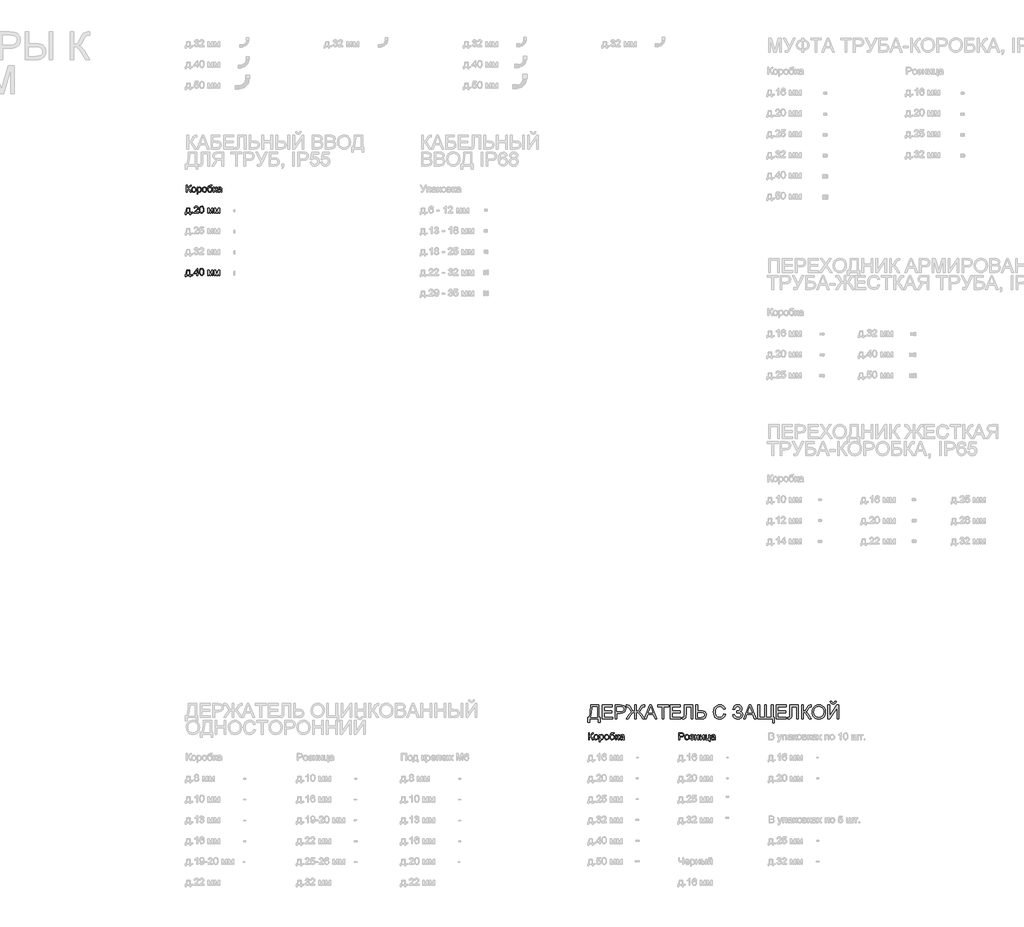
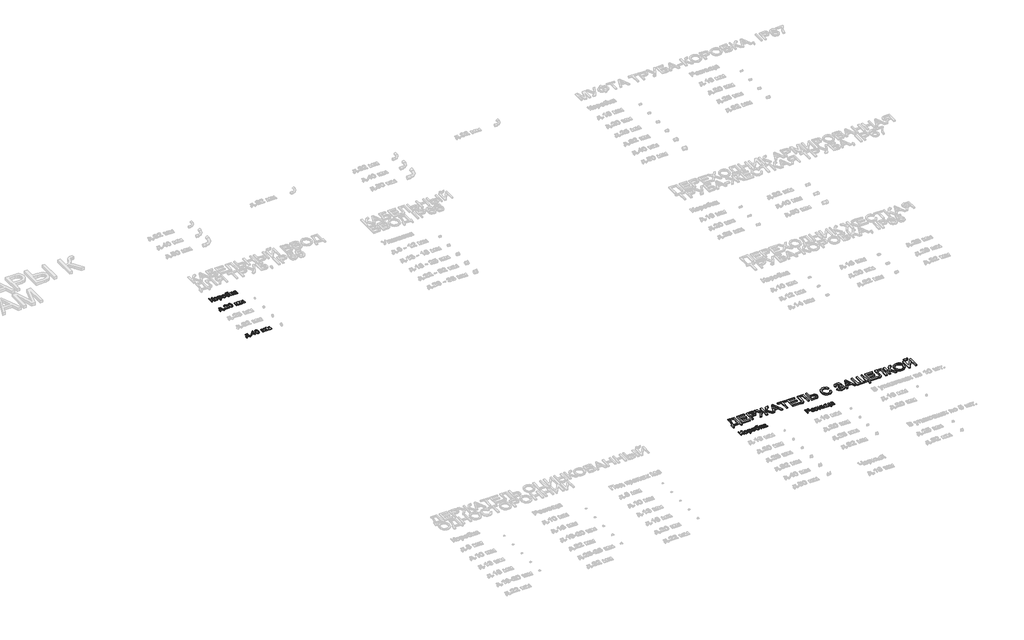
# One storey, part 52 of 98: 6 proxies.
"""IFC4 building model written with IfcOpenShell, lengths in millimetres."""

from ifc_helpers import new_model, si_unit, origin, origin_with_axes, place, context, project, spatial, polyline, outline, extrude, element, save

model = new_model("IFC4")

# Units and contexts
model_context = context("Model", 3, world=origin())
ifc_project = project(units=[si_unit("LENGTHUNIT", "METRE", prefix="MILLI")], contexts=[model_context])

# Site, building, storey
site = spatial("IfcSite", under=ifc_project)
building = spatial("IfcBuilding", under=site)
storey = spatial("IfcBuildingStorey", under=building, Name="Этаж 01", Elevation=0.0)

# Proxies
placement = place(None, origin())
element("IfcBuildingElementProxy", 1, Name="100", ObjectType="100", at=placement, inside=storey, context=model_context, shape_type="SweptSolid", body=[
    extrude(outline(polyline([(5765.3429127, -31859.0558563), (5777.8999515, -31859.0558563), (5777.8999515, -31903.005492), (5791.940781, -31899.6822913), (5801.7387048, -31882.8700841), (5808.667149, -31868.8292546), (5816.5152983, -31861.8762849), (5827.7356991, -31859.0558563), (5835.9762558, -31859.2030091), (5835.9762558, -31871.7600479), (5833.2048781, -31871.6864715), (5830.4335004, -31871.6128951), (5820.6233139, -31874.6295274), (5813.1675721, -31887.5544482), (5804.2770906, -31903.2997976), (5795.6073382, -31908.4991965), (5805.3010288, -31914.1768419), (5814.8598293, -31926.0103794), (5835.9762558, -31959.5121665), (5821.4081288, -31959.5121665), (5803.5535893, -31931.2097783), (5790.9842878, -31916.4331848), (5777.8999515, -31912.4232711), (5777.8999515, -31959.5121665), (5765.3429127, -31959.5121665), (5765.3429127, -31859.0558563)])), origin_with_axes(), (0.0, 0.0, 1.0), 10.0),
    extrude(outline(polyline([(5842.2547752, -31922.6258651), (5844.9709706, -31904.8387706), (5853.1195568, -31892.3369141), (5863.1872607, -31886.2116789), (5875.2415274, -31884.1699338), (5888.4331627, -31886.656203), (5898.9699161, -31894.1150104), (5905.8769006, -31905.957745), (5908.1792287, -31921.5957955), (5904.1080013, -31943.9384953), (5892.2499384, -31956.5813732), (5875.2415274, -31961.0817963), (5861.8904767, -31958.6047242), (5851.365986, -31951.1735079), (5844.5325779, -31939.082453), (5842.2547752, -31922.6258651)]), holes=[polyline([(5854.811814, -31922.6013396), (5856.2649479, -31933.9658276), (5860.6243495, -31942.0622972), (5867.1849117, -31946.9091424), (5875.2415274, -31948.5247575), (5883.2613549, -31946.8999454), (5889.8096545, -31942.025509), (5894.1690561, -31933.8217405), (5895.62219, -31922.2089321), (5894.159859, -31911.175538), (5889.7728663, -31903.189433), (5883.2153697, -31898.3425877), (5875.2415274, -31896.7269726), (5867.1849117, -31898.3364563), (5860.6243495, -31903.1649075), (5856.2649479, -31911.242983), (5854.811814, -31922.6013396)])]), origin_with_axes(), (0.0, 0.0, 1.0), 10.0),
    extrude(outline(polyline([(5922.3058974, -31987.7655037), (5922.3058974, -31885.7395637), (5934.8629361, -31885.7395637), (5934.8629361, -31898.0513478), (5943.5449512, -31887.6402873), (5955.2681241, -31884.1699338), (5971.1851518, -31889.0259762), (5981.5839495, -31902.7111864), (5985.0910912, -31922.0617793), (5981.1302284, -31942.4056537), (5969.6277847, -31956.2625422), (5953.7475452, -31961.0817963), (5942.82145, -31957.8566975), (5934.8629361, -31949.7019799), (5934.8629361, -31987.7655037), (5922.3058974, -31987.7655037)]), holes=[polyline([(5934.8629361, -31923.2144763), (5936.2210338, -31934.4716653), (5940.2953269, -31942.34434), (5946.3071319, -31946.9796532), (5953.4777651, -31948.5247575), (5960.7648943, -31946.9244709), (5966.9299834, -31942.1236108), (5971.1330352, -31933.9627619), (5972.5340524, -31922.2825085), (5971.1667577, -31911.0866332), (5967.0648734, -31903.1035939), (5961.0622655, -31898.3211279), (5953.9927999, -31896.7269726), (5946.8957431, -31898.4222955), (5940.6632089, -31903.5082641), (5936.3130043, -31911.8254628), (5934.8629361, -31923.2144763)])]), origin_with_axes(), (0.0, 0.0, 1.0), 10.0),
    extrude(outline(polyline([(5996.0785001, -31922.6258651), (5998.7946955, -31904.8387706), (6006.9432817, -31892.3369141), (6017.0109856, -31886.2116789), (6029.0652524, -31884.1699338), (6042.2568876, -31886.656203), (6052.793641, -31894.1150104), (6059.7006255, -31905.957745), (6062.0029537, -31921.5957955), (6057.9317262, -31943.9384953), (6046.0736633, -31956.5813732), (6029.0652524, -31961.0817963), (6015.7142016, -31958.6047242), (6005.1897109, -31951.1735079), (5998.3563028, -31939.082453), (5996.0785001, -31922.6258651)]), holes=[polyline([(6008.6355389, -31922.6013396), (6010.0886728, -31933.9658276), (6014.4480744, -31942.0622972), (6021.0086367, -31946.9091424), (6029.0652524, -31948.5247575), (6037.0850799, -31946.8999454), (6043.6333794, -31942.025509), (6047.992781, -31933.8217405), (6049.4459149, -31922.2089321), (6047.983584, -31911.175538), (6043.5965912, -31903.189433), (6037.0390946, -31898.3425877), (6029.0652524, -31896.7269726), (6021.0086367, -31898.3364563), (6014.4480744, -31903.1649075), (6010.0886728, -31911.242983), (6008.6355389, -31922.6013396)])]), origin_with_axes(), (0.0, 0.0, 1.0), 10.0),
    extrude(outline(polyline([(6127.9274072, -31857.4862265), (6138.9148161, -31857.4862265), (6135.6774546, -31867.2841503), (6129.2763078, -31870.8280802), (6113.8988404, -31871.6128951), (6093.1870841, -31874.5069001), (6085.240833, -31883.7775264), (6082.5552945, -31900.1850634), (6093.4323388, -31888.1675849), (6107.4486428, -31884.1699338), (6120.514585, -31886.7113853), (6131.1157178, -31894.3357396), (6138.1422639, -31906.2949702), (6140.484446, -31921.8410502), (6135.8368701, -31943.447986), (6124.812673, -31956.4832714), (6107.4486428, -31961.0817963), (6096.1148117, -31959.6010713), (6087.6198033, -31955.1588962), (6076.7672844, -31940.002158), (6072.9903626, -31907.8370089), (6075.3723985, -31883.7438039), (6082.5185063, -31869.0499838), (6094.6064955, -31861.5543882), (6111.8141758, -31859.0558563), (6125.7936916, -31858.7738134), (6127.9274072, -31857.4862265)]), holes=[polyline([(6127.9274072, -31921.4486427), (6126.5662438, -31911.5679454), (6122.4827537, -31903.6554169), (6115.9221914, -31898.4590837), (6107.1298117, -31896.7269726), (6097.9634187, -31898.5571855), (6091.1637331, -31904.0478243), (6086.9514843, -31912.598015), (6085.5474014, -31923.6068837), (6087.0986371, -31934.2785273), (6091.7523443, -31942.1113481), (6098.6807886, -31946.9214052), (6107.0562353, -31948.5247575), (6115.4746017, -31946.6700191), (6122.1393971, -31941.105804), (6126.4804047, -31932.4820369), (6127.9274072, -31921.4486427)])]), origin_with_axes(), (0.0, 0.0, 1.0), 10.0),
    extrude(outline(polyline([(6156.1807444, -31885.7395637), (6168.7377832, -31885.7395637), (6168.7377832, -31917.1321606), (6177.1500181, -31914.8758177), (6184.0416742, -31901.7301677), (6189.7683706, -31890.3871396), (6194.8206167, -31886.6960569), (6204.0054038, -31885.7395637), (6206.4088995, -31885.7395637), (6206.4088995, -31898.3701789), (6203.0243851, -31898.2966025), (6196.8930186, -31899.6209776), (6192.5765365, -31907.8860598), (6187.5120277, -31916.8255923), (6180.4119052, -31921.203388), (6188.3336308, -31926.0900872), (6196.1082036, -31936.3846517), (6209.5481592, -31959.5121665), (6195.2743378, -31959.5121665), (6182.1041624, -31936.875161), (6175.4822864, -31927.2979664), (6168.7377832, -31924.9803098), (6168.7377832, -31959.5121665), (6156.1807444, -31959.5121665), (6156.1807444, -31885.7395637)])), origin_with_axes(), (0.0, 0.0, 1.0), 10.0),
    extrude(outline(polyline([(6264.4852038, -31950.0943874), (6252.3083098, -31958.6047242), (6238.8560915, -31961.0817963), (6228.3622576, -31959.5918742), (6220.6214072, -31955.122108), (6215.8481384, -31948.3346852), (6214.2570487, -31939.8917934), (6216.6605444, -31929.9589795), (6222.975852, -31922.7484924), (6231.7682317, -31918.6282141), (6242.6330133, -31916.7397532), (6264.4116274, -31912.4232711), (6264.4852038, -31909.6273679), (6261.027113, -31900.3567416), (6247.1456991, -31896.7269726), (6234.4415075, -31899.1427311), (6228.3837173, -31907.7143815), (6215.8266786, -31906.1447517), (6221.2590694, -31893.8820185), (6232.1974274, -31886.6960569), (6248.7643799, -31884.1699338), (6263.9824317, -31886.4017513), (6272.5786077, -31892.0058203), (6276.4291059, -31900.5284199), (6277.0422426, -31911.5158288), (6277.0422426, -31927.1385509), (6277.6799047, -31948.9539532), (6280.1815023, -31959.5121665), (6267.6244635, -31959.5121665), (6264.4852038, -31950.0943874)]), holes=[polyline([(6264.4852038, -31924.9803098), (6244.2271686, -31928.8308081), (6233.4237007, -31930.8664218), (6228.5308701, -31934.1773597), (6226.8140875, -31939.0088766), (6230.5542211, -31945.8024308), (6241.5293673, -31948.5247575), (6254.2335589, -31945.5203879), (6262.4250646, -31938.2485871), (6264.4116274, -31928.5365025), (6264.4852038, -31924.9803098)])]), origin_with_axes(), (0.0, 0.0, 1.0), 10.0),
])
element("IfcBuildingElementProxy", 2, Name="100", ObjectType="100", at=placement, inside=storey, context=model_context, shape_type="SweptSolid", body=[
    extrude(outline(polyline([(7065.3429127, -31959.5121665), (7065.3429127, -31859.0558563), (7102.5725707, -31859.0558563), (7117.5821561, -31860.0123495), (7129.7835756, -31864.7089763), (7137.6930385, -31874.421061), (7140.6851454, -31888.1185339), (7138.6648601, -31899.9582028), (7132.6040042, -31909.8235716), (7121.2701731, -31916.4822358), (7103.430962, -31918.7017905), (7077.8999515, -31918.7017905), (7077.8999515, -31959.5121665), (7065.3429127, -31959.5121665)]), holes=[polyline([(7077.8999515, -31906.1447517), (7104.166726, -31906.1447517), (7122.6589276, -31901.533964), (7126.7608118, -31895.9850773), (7128.1281066, -31888.5599923), (7124.9030078, -31878.1611946), (7116.4294591, -31872.4712864), (7103.8724204, -31871.6128951), (7077.8999515, -31871.6128951), (7077.8999515, -31906.1447517)])]), origin_with_axes(), (0.0, 0.0, 1.0), 10.0),
    extrude(outline(polyline([(7153.2421841, -31922.6258651), (7155.9583795, -31904.8387706), (7164.1069657, -31892.3369141), (7174.1746697, -31886.2116789), (7186.2289364, -31884.1699338), (7199.4205716, -31886.656203), (7209.9573251, -31894.1150104), (7216.8643095, -31905.957745), (7219.1666377, -31921.5957955), (7215.0954103, -31943.9384953), (7203.2373473, -31956.5813732), (7186.2289364, -31961.0817963), (7172.8778856, -31958.6047242), (7162.3533949, -31951.1735079), (7155.5199868, -31939.082453), (7153.2421841, -31922.6258651)]), holes=[polyline([(7165.7992229, -31922.6013396), (7167.2523568, -31933.9658276), (7171.6117584, -31942.0622972), (7178.1723207, -31946.9091424), (7186.2289364, -31948.5247575), (7194.2487639, -31946.8999454), (7200.7970634, -31942.025509), (7205.156465, -31933.8217405), (7206.6095989, -31922.2089321), (7205.147268, -31911.175538), (7200.7602752, -31903.189433), (7194.2027786, -31898.3425877), (7186.2289364, -31896.7269726), (7178.1723207, -31898.3364563), (7171.6117584, -31903.1649075), (7167.2523568, -31911.242983), (7165.7992229, -31922.6013396)])]), origin_with_axes(), (0.0, 0.0, 1.0), 10.0),
    extrude(outline(polyline([(7250.5592346, -31926.5499397), (7250.5592346, -31913.9929009), (7260.467523, -31913.5023916), (7265.4707181, -31910.8904294), (7267.8251629, -31905.4335132), (7264.6736405, -31899.0936801), (7256.5434484, -31896.7269726), (7248.1434762, -31899.0814174), (7242.7110854, -31906.1447517), (7228.5844167, -31904.5751218), (7238.0267213, -31889.2712308), (7255.2681241, -31884.1699338), (7265.7650237, -31885.7242353), (7273.7112748, -31890.3871396), (7278.71447, -31897.2082849), (7280.3822017, -31905.2373094), (7278.0093628, -31913.0364077), (7270.8908462, -31919.0696725), (7279.1927165, -31926.8932962), (7281.9518315, -31938.1504853), (7280.2013263, -31947.3935204), (7274.9498109, -31954.7174378), (7266.5529043, -31959.4907067), (7255.366226, -31961.0817963), (7244.4248023, -31959.6102683), (7236.0524212, -31955.1956844), (7230.2490828, -31947.8380445), (7227.0147869, -31937.5373486), (7241.1414555, -31935.9677188), (7246.8068382, -31945.238345), (7256.5679738, -31948.5247575), (7265.7404983, -31945.3732351), (7269.3947927, -31937.3166194), (7267.1261871, -31930.719269), (7262.2946702, -31927.1876018), (7253.0117812, -31926.4763633), (7250.5592346, -31926.5499397)])), origin_with_axes(), (0.0, 0.0, 1.0), 10.0),
    extrude(outline(polyline([(7297.64813, -31885.7395637), (7310.2051687, -31885.7395637), (7310.2051687, -31913.9929009), (7343.1673955, -31913.9929009), (7343.1673955, -31885.7395637), (7355.7244343, -31885.7395637), (7355.7244343, -31959.5121665), (7343.1673955, -31959.5121665), (7343.1673955, -31926.5499397), (7310.2051687, -31926.5499397), (7310.2051687, -31959.5121665), (7297.64813, -31959.5121665), (7297.64813, -31885.7395637)])), origin_with_axes(), (0.0, 0.0, 1.0), 10.0),
    extrude(outline(polyline([(7374.5599924, -31885.7395637), (7387.1170312, -31885.7395637), (7387.1170312, -31942.0009835), (7417.9700679, -31885.7395637), (7434.2059266, -31885.7395637), (7434.2059266, -31959.5121665), (7421.6488878, -31959.5121665), (7421.6488878, -31903.5941032), (7390.9920549, -31959.5121665), (7374.5599924, -31959.5121665), (7374.5599924, -31885.7395637)])), origin_with_axes(), (0.0, 0.0, 1.0), 10.0),
    extrude(outline(polyline([(7453.0414847, -31885.7395637), (7465.5985235, -31885.7395637), (7465.5985235, -31946.9551277), (7501.70001, -31946.9551277), (7501.70001, -31885.7395637), (7514.2570487, -31885.7395637), (7514.2570487, -31946.9551277), (7522.105198, -31946.9551277), (7522.105198, -31979.9173545), (7509.5481592, -31979.9173545), (7509.5481592, -31959.5121665), (7453.0414847, -31959.5121665), (7453.0414847, -31885.7395637)])), origin_with_axes(), (0.0, 0.0, 1.0), 10.0),
    extrude(outline(polyline([(7580.1815023, -31950.0943874), (7568.0046082, -31958.6047242), (7554.5523899, -31961.0817963), (7544.058556, -31959.5918742), (7536.3177057, -31955.122108), (7531.5444368, -31948.3346852), (7529.9533472, -31939.8917934), (7532.3568429, -31929.9589795), (7538.6721505, -31922.7484924), (7547.4645302, -31918.6282141), (7558.3293118, -31916.7397532), (7580.1079259, -31912.4232711), (7580.1815023, -31909.6273679), (7576.7234115, -31900.3567416), (7562.8419976, -31896.7269726), (7550.137806, -31899.1427311), (7544.0800158, -31907.7143815), (7531.522977, -31906.1447517), (7536.9553678, -31893.8820185), (7547.8937258, -31886.6960569), (7564.4606783, -31884.1699338), (7579.6787302, -31886.4017513), (7588.2749062, -31892.0058203), (7592.1254044, -31900.5284199), (7592.738541, -31911.5158288), (7592.738541, -31927.1385509), (7593.3762032, -31948.9539532), (7595.8778007, -31959.5121665), (7583.320762, -31959.5121665), (7580.1815023, -31950.0943874)]), holes=[polyline([(7580.1815023, -31924.9803098), (7559.9234671, -31928.8308081), (7549.1199991, -31930.8664218), (7544.2271686, -31934.1773597), (7542.510386, -31939.0088766), (7546.2505196, -31945.8024308), (7557.2256658, -31948.5247575), (7569.9298573, -31945.5203879), (7578.1213631, -31938.2485871), (7580.1079259, -31928.5365025), (7580.1815023, -31924.9803098)])]), origin_with_axes(), (0.0, 0.0, 1.0), 10.0),
])
element("IfcBuildingElementProxy", 3, Name="100", ObjectType="100", at=placement, inside=storey, context=model_context, shape_type="SweptSolid", body=[
    extrude(outline(polyline([(-36.4035925, -23959.0558563), (-23.8465538, -23959.0558563), (-23.8465538, -24003.005492), (-9.8057243, -23999.6822913), (-0.0078005, -23982.8700841), (6.9206438, -23968.8292546), (14.768793, -23961.8762849), (25.9891938, -23959.0558563), (34.2297505, -23959.2030091), (34.2297505, -23971.7600479), (31.4583728, -23971.6864715), (28.6869951, -23971.6128951), (18.8768086, -23974.6295274), (11.4210668, -23987.5544482), (2.5305853, -24003.2997976), (-6.1391671, -24008.4991965), (3.5545235, -24014.1768419), (13.113324, -24026.0103794), (34.2297505, -24059.5121665), (19.6616235, -24059.5121665), (1.807084, -24031.2097783), (-10.7622175, -24016.4331848), (-23.8465538, -24012.4232711), (-23.8465538, -24059.5121665), (-36.4035925, -24059.5121665), (-36.4035925, -23959.0558563)])), origin_with_axes(), (0.0, 0.0, 1.0), 10.0),
    extrude(outline(polyline([(40.5082699, -24022.6258651), (43.2244653, -24004.8387706), (51.3730515, -23992.3369141), (61.4407554, -23986.2116789), (73.4950221, -23984.1699338), (86.6866574, -23986.656203), (97.2234108, -23994.1150104), (104.1303953, -24005.957745), (106.4327234, -24021.5957955), (102.361496, -24043.9384953), (90.5034331, -24056.5813732), (73.4950221, -24061.0817963), (60.1439714, -24058.6047242), (49.6194807, -24051.1735079), (42.7860726, -24039.082453), (40.5082699, -24022.6258651)]), holes=[polyline([(53.0653087, -24022.6013396), (54.5184426, -24033.9658276), (58.8778442, -24042.0622972), (65.4384065, -24046.9091424), (73.4950221, -24048.5247575), (81.5148496, -24046.8999454), (88.0631492, -24042.025509), (92.4225508, -24033.8217405), (93.8756847, -24022.2089321), (92.4133537, -24011.175538), (88.026361, -24003.189433), (81.4688644, -23998.3425877), (73.4950221, -23996.7269726), (65.4384065, -23998.3364563), (58.8778442, -24003.1649075), (54.5184426, -24011.242983), (53.0653087, -24022.6013396)])]), origin_with_axes(), (0.0, 0.0, 1.0), 10.0),
    extrude(outline(polyline([(120.5593921, -24087.7655037), (120.5593921, -23985.7395637), (133.1164308, -23985.7395637), (133.1164308, -23998.0513478), (141.7984459, -23987.6402873), (153.5216188, -23984.1699338), (169.4386465, -23989.0259762), (179.8374442, -24002.7111864), (183.3445859, -24022.0617793), (179.3837231, -24042.4056537), (167.8812794, -24056.2625422), (152.0010399, -24061.0817963), (141.0749447, -24057.8566975), (133.1164308, -24049.7019799), (133.1164308, -24087.7655037), (120.5593921, -24087.7655037)]), holes=[polyline([(133.1164308, -24023.2144763), (134.4745285, -24034.4716653), (138.5488216, -24042.34434), (144.5606266, -24046.9796532), (151.7312598, -24048.5247575), (159.018389, -24046.9244709), (165.1834781, -24042.1236108), (169.3865299, -24033.9627619), (170.7875471, -24022.2825085), (169.4202524, -24011.0866332), (165.3183681, -24003.1035939), (159.3157603, -23998.3211279), (152.2462946, -23996.7269726), (145.1492378, -23998.4222955), (138.9167036, -24003.5082641), (134.566499, -24011.8254628), (133.1164308, -24023.2144763)])]), origin_with_axes(), (0.0, 0.0, 1.0), 10.0),
    extrude(outline(polyline([(194.3319948, -24022.6258651), (197.0481902, -24004.8387706), (205.1967764, -23992.3369141), (215.2644804, -23986.2116789), (227.3187471, -23984.1699338), (240.5103823, -23986.656203), (251.0471358, -23994.1150104), (257.9541202, -24005.957745), (260.2564484, -24021.5957955), (256.185221, -24043.9384953), (244.327158, -24056.5813732), (227.3187471, -24061.0817963), (213.9676963, -24058.6047242), (203.4432056, -24051.1735079), (196.6097975, -24039.082453), (194.3319948, -24022.6258651)]), holes=[polyline([(206.8890336, -24022.6013396), (208.3421675, -24033.9658276), (212.7015691, -24042.0622972), (219.2621314, -24046.9091424), (227.3187471, -24048.5247575), (235.3385746, -24046.8999454), (241.8868741, -24042.025509), (246.2462757, -24033.8217405), (247.6994096, -24022.2089321), (246.2370787, -24011.175538), (241.8500859, -24003.189433), (235.2925893, -23998.3425877), (227.3187471, -23996.7269726), (219.2621314, -23998.3364563), (212.7015691, -24003.1649075), (208.3421675, -24011.242983), (206.8890336, -24022.6013396)])]), origin_with_axes(), (0.0, 0.0, 1.0), 10.0),
    extrude(outline(polyline([(326.1809019, -23957.4862265), (337.1683108, -23957.4862265), (333.9309493, -23967.2841503), (327.5298025, -23970.8280802), (312.1523351, -23971.6128951), (291.4405788, -23974.5069001), (283.4943277, -23983.7775264), (280.8087892, -24000.1850634), (291.6858335, -23988.1675849), (305.7021375, -23984.1699338), (318.7680797, -23986.7113853), (329.3692125, -23994.3357396), (336.3957586, -24006.2949702), (338.7379407, -24021.8410502), (334.0903648, -24043.447986), (323.0661677, -24056.4832714), (305.7021375, -24061.0817963), (294.3683064, -24059.6010713), (285.873298, -24055.1588962), (275.0207791, -24040.002158), (271.2438573, -24007.8370089), (273.6258932, -23983.7438039), (280.772001, -23969.0499838), (292.8599902, -23961.5543882), (310.0676705, -23959.0558563), (324.0471863, -23958.7738134), (326.1809019, -23957.4862265)]), holes=[polyline([(326.1809019, -24021.4486427), (324.8197385, -24011.5679454), (320.7362484, -24003.6554169), (314.1756861, -23998.4590837), (305.3833064, -23996.7269726), (296.2169134, -23998.5571855), (289.4172278, -24004.0478243), (285.204979, -24012.598015), (283.8008961, -24023.6068837), (285.3521318, -24034.2785273), (290.005839, -24042.1113481), (296.9342833, -24046.9214052), (305.30973, -24048.5247575), (313.7280964, -24046.6700191), (320.3928918, -24041.105804), (324.7338994, -24032.4820369), (326.1809019, -24021.4486427)])]), origin_with_axes(), (0.0, 0.0, 1.0), 10.0),
    extrude(outline(polyline([(354.4342391, -23985.7395637), (366.9912779, -23985.7395637), (366.9912779, -24017.1321606), (375.4035129, -24014.8758177), (382.2951689, -24001.7301677), (388.0218653, -23990.3871396), (393.0741114, -23986.6960569), (402.2588985, -23985.7395637), (404.6623942, -23985.7395637), (404.6623942, -23998.3701789), (401.2778798, -23998.2966025), (395.1465133, -23999.6209776), (390.8300312, -24007.8860598), (385.7655224, -24016.8255923), (378.6653999, -24021.203388), (386.5871255, -24026.0900872), (394.3616983, -24036.3846517), (407.8016539, -24059.5121665), (393.5278325, -24059.5121665), (380.3576571, -24036.875161), (373.7357811, -24027.2979664), (366.9912779, -24024.9803098), (366.9912779, -24059.5121665), (354.4342391, -24059.5121665), (354.4342391, -23985.7395637)])), origin_with_axes(), (0.0, 0.0, 1.0), 10.0),
    extrude(outline(polyline([(462.7386985, -24050.0943874), (450.5618045, -24058.6047242), (437.1095862, -24061.0817963), (426.6157523, -24059.5918742), (418.874902, -24055.122108), (414.1016331, -24048.3346852), (412.5105434, -24039.8917934), (414.9140391, -24029.9589795), (421.2293467, -24022.7484924), (430.0217264, -24018.6282141), (440.886508, -24016.7397532), (462.6651221, -24012.4232711), (462.7386985, -24009.6273679), (459.2806078, -24000.3567416), (445.3991938, -23996.7269726), (432.6950022, -23999.142731), (426.637212, -24007.7143815), (414.0801733, -24006.1447517), (419.5125641, -23993.8820185), (430.4509221, -23986.6960569), (447.0178746, -23984.1699338), (462.2359264, -23986.4017513), (470.8321024, -23992.0058203), (474.6826006, -24000.5284199), (475.2957373, -24011.5158288), (475.2957373, -24027.1385509), (475.9333994, -24048.9539532), (478.434997, -24059.5121665), (465.8779582, -24059.5121665), (462.7386985, -24050.0943874)]), holes=[polyline([(462.7386985, -24024.9803098), (442.4806633, -24028.8308081), (431.6771954, -24030.8664218), (426.7843648, -24034.1773597), (425.0675822, -24039.0088766), (428.8077158, -24045.8024308), (439.782862, -24048.5247575), (452.4870536, -24045.5203879), (460.6785593, -24038.2485871), (462.6651221, -24028.5365025), (462.7386985, -24024.9803098)])]), origin_with_axes(), (0.0, 0.0, 1.0), 10.0),
])
element("IfcBuildingElementProxy", 4, Name="100", ObjectType="100", at=placement, inside=storey, context=model_context, shape_type="SweptSolid", body=[
    extrude(outline(polyline([(-29.8143916, -24285.7395637), (17.2745038, -24285.7395637), (17.2745038, -24346.9551277), (26.6922829, -24346.9551277), (26.6922829, -24379.9173545), (14.1352441, -24379.9173545), (14.1352441, -24359.5121665), (-37.6625408, -24359.5121665), (-37.6625408, -24379.9173545), (-50.2195796, -24379.9173545), (-50.2195796, -24346.9551277), (-42.3714303, -24346.9551277), (-32.6716084, -24323.0060098), (-29.8143916, -24285.7395637)]), holes=[polyline([(-18.8269827, -24298.2966025), (-21.7700386, -24326.905559), (-28.2447617, -24346.9551277), (4.717465, -24346.9551277), (4.717465, -24298.2966025), (-18.8269827, -24298.2966025)])]), origin_with_axes(), (0.0, 0.0, 1.0), 10.0),
    extrude(outline(polyline([(43.9582112, -24359.5121665), (43.9582112, -24346.9551277), (56.51525, -24346.9551277), (56.51525, -24359.5121665), (43.9582112, -24359.5121665)])), origin_with_axes(), (0.0, 0.0, 1.0), 10.0),
    extrude(outline(polyline([(141.2752616, -24346.9551277), (141.2752616, -24359.5121665), (75.3508081, -24359.5121665), (76.6997088, -24350.8546768), (84.3271288, -24337.5250859), (100.0479527, -24322.9692216), (121.728465, -24302.0489988), (127.148593, -24287.8242283), (122.0350333, -24276.3095219), (108.6809169, -24271.6128951), (94.7627147, -24276.1991573), (89.4774767, -24288.8788234), (76.920438, -24287.3091935), (79.9646615, -24275.1629563), (86.5466835, -24266.2908689), (96.3231475, -24260.8646095), (108.950697, -24259.0558563), (121.670217, -24261.0669445), (131.4282869, -24267.1002093), (137.6362956, -24276.1133182), (139.7056318, -24287.0639389), (137.4738144, -24298.9710528), (130.0548608, -24311.2828369), (112.0654312, -24328.4874515), (97.6199315, -24340.5662437), (91.9545488, -24346.9551277), (141.2752616, -24346.9551277)])), origin_with_axes(), (0.0, 0.0, 1.0), 10.0),
    extrude(outline(polyline([(153.8323004, -24310.0933518), (157.5233831, -24281.1900897), (168.4862666, -24264.5250353), (186.7945272, -24259.0558563), (201.4607561, -24262.2932179), (211.5897737, -24271.6251578), (217.4758856, -24286.4875904), (219.7567539, -24310.0933518), (216.1024595, -24338.8739865), (205.1763642, -24355.5758291), (196.9450046, -24359.7053045), (186.7945272, -24361.0817963), (173.7469791, -24358.6905633), (163.8386907, -24351.5168644), (156.333898, -24334.5268476), (153.8323004, -24310.0933518)]), holes=[polyline([(166.3893392, -24310.0688263), (167.8608672, -24329.8210238), (172.2754511, -24341.2529568), (178.8482761, -24346.7068073), (186.7945272, -24348.5247575), (194.7407783, -24346.700676), (201.3136033, -24341.2284313), (205.7281872, -24329.7903669), (207.1997152, -24310.0688263), (205.7772381, -24290.7611529), (201.509807, -24279.2403151), (194.9492447, -24273.5197501), (186.6473744, -24271.6128951), (178.7869624, -24273.2928895), (172.4716548, -24278.3328729), (167.9099181, -24290.5710806), (166.3893392, -24310.0688263)])]), origin_with_axes(), (0.0, 0.0, 1.0), 10.0),
    extrude(outline(polyline([(273.1241687, -24285.7395637), (294.7311046, -24285.7395637), (311.3838962, -24344.7968867), (329.3365376, -24285.7395637), (350.0360312, -24285.7395637), (350.0360312, -24359.5121665), (337.4789924, -24359.5121665), (337.4789924, -24300.111487), (319.4282492, -24359.5121665), (302.9471358, -24359.5121665), (285.6812075, -24297.2665329), (285.6812075, -24359.5121665), (273.1241687, -24359.5121665), (273.1241687, -24285.7395637)])), origin_with_axes(), (0.0, 0.0, 1.0), 10.0),
    extrude(outline(polyline([(368.8715893, -24285.7395637), (390.4785252, -24285.7395637), (407.1313168, -24344.7968867), (425.0839582, -24285.7395637), (445.7834518, -24285.7395637), (445.7834518, -24359.5121665), (433.226413, -24359.5121665), (433.226413, -24300.111487), (415.1756698, -24359.5121665), (398.6945564, -24359.5121665), (381.4286281, -24297.2665329), (381.4286281, -24359.5121665), (368.8715893, -24359.5121665), (368.8715893, -24285.7395637)])), origin_with_axes(), (0.0, 0.0, 1.0), 10.0),
])
element("IfcBuildingElementProxy", 5, Name="100", ObjectType="100", at=placement, inside=storey, context=model_context, shape_type="SweptSolid", body=[
    extrude(outline(polyline([(-29.8143916, -25185.7395637), (17.2745038, -25185.7395637), (17.2745038, -25246.9551277), (26.6922829, -25246.9551277), (26.6922829, -25279.9173545), (14.1352441, -25279.9173545), (14.1352441, -25259.5121665), (-37.6625408, -25259.5121665), (-37.6625408, -25279.9173545), (-50.2195796, -25279.9173545), (-50.2195796, -25246.9551277), (-42.3714303, -25246.9551277), (-32.6716084, -25223.0060098), (-29.8143916, -25185.7395637)]), holes=[polyline([(-18.8269827, -25198.2966025), (-21.7700386, -25226.905559), (-28.2447617, -25246.9551277), (4.717465, -25246.9551277), (4.717465, -25198.2966025), (-18.8269827, -25198.2966025)])]), origin_with_axes(), (0.0, 0.0, 1.0), 10.0),
    extrude(outline(polyline([(43.9582112, -25259.5121665), (43.9582112, -25246.9551277), (56.51525, -25246.9551277), (56.51525, -25259.5121665), (43.9582112, -25259.5121665)])), origin_with_axes(), (0.0, 0.0, 1.0), 10.0),
    extrude(outline(polyline([(117.730814, -25259.5121665), (117.730814, -25235.9677188), (72.2115484, -25235.9677188), (72.2115484, -25223.41068), (120.8700736, -25160.6254862), (130.2878527, -25160.6254862), (130.2878527, -25223.41068), (142.8448915, -25223.41068), (142.8448915, -25235.9677188), (130.2878527, -25235.9677188), (130.2878527, -25259.5121665), (117.730814, -25259.5121665)]), holes=[polyline([(117.730814, -25223.41068), (117.730814, -25184.6113922), (87.6625922, -25223.41068), (117.730814, -25223.41068)])]), origin_with_axes(), (0.0, 0.0, 1.0), 10.0),
    extrude(outline(polyline([(153.8323004, -25210.0933518), (157.5233831, -25181.1900897), (168.4862666, -25164.5250353), (186.7945272, -25159.0558563), (201.4607561, -25162.2932179), (211.5897737, -25171.6251578), (217.4758856, -25186.4875904), (219.7567539, -25210.0933518), (216.1024595, -25238.8739865), (205.1763642, -25255.5758291), (196.9450046, -25259.7053045), (186.7945272, -25261.0817963), (173.7469791, -25258.6905633), (163.8386907, -25251.5168644), (156.333898, -25234.5268476), (153.8323004, -25210.0933518)]), holes=[polyline([(166.3893392, -25210.0688263), (167.8608672, -25229.8210238), (172.2754511, -25241.2529568), (178.8482761, -25246.7068073), (186.7945272, -25248.5247575), (194.7407783, -25246.700676), (201.3136033, -25241.2284313), (205.7281872, -25229.7903669), (207.1997152, -25210.0688263), (205.7772381, -25190.7611529), (201.509807, -25179.2403151), (194.9492447, -25173.5197501), (186.6473744, -25171.6128951), (178.7869624, -25173.2928895), (172.4716548, -25178.3328729), (167.9099181, -25190.5710806), (166.3893392, -25210.0688263)])]), origin_with_axes(), (0.0, 0.0, 1.0), 10.0),
    extrude(outline(polyline([(273.1241687, -25185.7395637), (294.7311046, -25185.7395637), (311.3838962, -25244.7968867), (329.3365376, -25185.7395637), (350.0360312, -25185.7395637), (350.0360312, -25259.5121665), (337.4789924, -25259.5121665), (337.4789924, -25200.111487), (319.4282492, -25259.5121665), (302.9471358, -25259.5121665), (285.6812075, -25197.2665329), (285.6812075, -25259.5121665), (273.1241687, -25259.5121665), (273.1241687, -25185.7395637)])), origin_with_axes(), (0.0, 0.0, 1.0), 10.0),
    extrude(outline(polyline([(368.8715893, -25185.7395637), (390.4785252, -25185.7395637), (407.1313168, -25244.7968867), (425.0839582, -25185.7395637), (445.7834518, -25185.7395637), (445.7834518, -25259.5121665), (433.226413, -25259.5121665), (433.226413, -25200.111487), (415.1756698, -25259.5121665), (398.6945564, -25259.5121665), (381.4286281, -25197.2665329), (381.4286281, -25259.5121665), (368.8715893, -25259.5121665), (368.8715893, -25185.7395637)])), origin_with_axes(), (0.0, 0.0, 1.0), 10.0),
])
element("IfcBuildingElementProxy", 6, Name="200", ObjectType="200", at=placement, inside=storey, context=model_context, shape_type="SweptSolid", body=[
    extrude(outline(polyline([(5795.1658798, -31458.5995462), (5914.4577481, -31458.5995462), (5914.4577481, -31634.3980889), (5933.2933063, -31634.3980889), (5933.2933063, -31706.6010618), (5908.1792287, -31706.6010618), (5908.1792287, -31659.5121665), (5779.4695814, -31659.5121665), (5779.4695814, -31706.6010618), (5754.3555038, -31706.6010618), (5754.3555038, -31634.3980889), (5770.0518023, -31634.3980889), (5781.0392112, -31611.6169964), (5788.8873604, -31579.5714089), (5793.59625, -31538.2613265), (5795.1658798, -31487.6867492), (5795.1658798, -31458.5995462)]), holes=[polyline([(5889.3436706, -31483.7136237), (5820.2799574, -31483.7136237), (5820.2799574, -31493.8181158), (5815.1786604, -31562.6365744), (5807.6248167, -31602.4046181), (5795.1658798, -31634.3980889), (5889.3436706, -31634.3980889), (5889.3436706, -31483.7136237)])]), origin_with_axes(), (0.0, 0.0, 1.0), 20.0),
    extrude(outline(polyline([(5964.6859032, -31659.5121665), (5964.6859032, -31458.5995462), (6109.091849, -31458.5995462), (6109.091849, -31483.7136237), (5989.7999807, -31483.7136237), (5989.7999807, -31543.3595578), (6102.8133297, -31543.3595578), (6102.8133297, -31568.4736354), (5989.7999807, -31568.4736354), (5989.7999807, -31634.3980889), (6112.2311087, -31634.3980889), (6112.2311087, -31659.5121665), (5964.6859032, -31659.5121665)])), origin_with_axes(), (0.0, 0.0, 1.0), 20.0),
    extrude(outline(polyline([(6149.902225, -31659.5121665), (6149.902225, -31458.5995462), (6224.3615409, -31458.5995462), (6254.3807117, -31460.5125325), (6278.7835507, -31469.9057861), (6287.6556381, -31478.232182), (6294.6024765, -31489.3299555), (6299.0906368, -31502.4204232), (6300.5866903, -31516.7249014), (6296.5461197, -31540.4042392), (6284.4244079, -31560.1349768), (6274.7169218, -31567.9034183), (6261.7567457, -31573.4523051), (6226.0783235, -31577.8914145), (6175.0163026, -31577.8914145), (6175.0163026, -31659.5121665), (6149.902225, -31659.5121665)]), holes=[polyline([(6175.0163026, -31552.7773369), (6227.5498515, -31552.7773369), (6249.8189749, -31550.4719431), (6264.5342547, -31543.5557616), (6272.7380232, -31532.4579881), (6275.4726127, -31517.6078182), (6273.8600633, -31506.3261037), (6269.0224151, -31496.8102227), (6261.5605419, -31489.6487866), (6252.0753178, -31485.4304063), (6226.9612403, -31483.7136237), (6175.0163026, -31483.7136237), (6175.0163026, -31552.7773369)])]), origin_with_axes(), (0.0, 0.0, 1.0), 20.0),
    extrude(outline(polyline([(6454.4104152, -31458.5995462), (6454.4104152, -31546.4988175), (6472.7799895, -31544.8065604), (6484.3314841, -31539.7297888), (6493.3691185, -31527.9820904), (6504.1971119, -31506.2770527), (6518.4218823, -31478.1953938), (6534.33891, -31464.2404034), (6556.9759154, -31458.5995462), (6573.7022835, -31458.8938518), (6573.7022835, -31483.7136237), (6568.208579, -31483.5664709), (6562.5677218, -31483.4193181), (6550.8322861, -31484.9521597), (6542.6039922, -31489.5506847), (6527.398203, -31515.2043225), (6511.3340226, -31543.9236436), (6491.6400731, -31556.6033097), (6511.4934381, -31568.3264826), (6530.7336664, -31592.5085924), (6573.7022835, -31659.5121665), (6544.5169785, -31659.5121665), (6508.0721355, -31602.6621355), (6482.9825835, -31573.7711361), (6470.7505071, -31567.4435658), (6454.4104152, -31565.3343757), (6454.4104152, -31659.5121665), (6429.2963376, -31659.5121665), (6429.2963376, -31565.3343757), (6415.5436824, -31566.9714506), (6403.5200725, -31571.8826752), (6391.4228862, -31582.2017652), (6377.4495018, -31600.062436), (6375.6346173, -31602.6621355), (6339.1897743, -31659.5121665), (6310.0044693, -31659.5121665), (6352.9240354, -31592.5085924), (6372.384993, -31568.2529062), (6392.1157307, -31556.6033097), (6373.4763762, -31545.2480188), (6356.3085498, -31515.2043225), (6340.6613023, -31489.0111244), (6332.5801611, -31485.0379989), (6321.2861839, -31483.7136237), (6310.0044693, -31484.0079293), (6310.0044693, -31458.8938518), (6325.8479206, -31458.5995462), (6349.3923683, -31464.1177761), (6365.0150904, -31477.9501391), (6379.509641, -31506.3261037), (6390.3437657, -31528.2702647), (6399.3016923, -31539.8524162), (6410.8102674, -31544.7145899), (6429.2963376, -31546.4988175), (6429.2963376, -31458.5995462), (6454.4104152, -31458.5995462)])), origin_with_axes(), (0.0, 0.0, 1.0), 20.0),
    extrude(outline(polyline([(6569.1405467, -31659.5121665), (6649.3388217, -31458.5995462), (6670.7250283, -31458.5995462), (6750.9233033, -31659.5121665), (6724.3867487, -31659.5121665), (6701.3818613, -31596.7269726), (6618.6329378, -31596.7269726), (6595.6771013, -31659.5121665), (6569.1405467, -31659.5121665)]), holes=[polyline([(6627.8545132, -31571.6128951), (6692.2093369, -31571.6128951), (6674.1095427, -31522.2186059), (6660.031925, -31483.7136237), (6647.5239372, -31517.9021238), (6627.8545132, -31571.6128951)])]), origin_with_axes(), (0.0, 0.0, 1.0), 20.0),
    extrude(outline(polyline([(6827.9823186, -31659.5121665), (6827.9823186, -31483.7136237), (6762.057865, -31483.7136237), (6762.057865, -31458.5995462), (6919.0208496, -31458.5995462), (6919.0208496, -31483.7136237), (6853.0963961, -31483.7136237), (6853.0963961, -31659.5121665), (6827.9823186, -31659.5121665)])), origin_with_axes(), (0.0, 0.0, 1.0), 20.0),
    extrude(outline(polyline([(6947.2741869, -31659.5121665), (6947.2741869, -31458.5995462), (7091.6801327, -31458.5995462), (7091.6801327, -31483.7136237), (6972.3882644, -31483.7136237), (6972.3882644, -31543.3595578), (7085.4016133, -31543.3595578), (7085.4016133, -31568.4736354), (6972.3882644, -31568.4736354), (6972.3882644, -31634.3980889), (7094.8193924, -31634.3980889), (7094.8193924, -31659.5121665), (6947.2741869, -31659.5121665)])), origin_with_axes(), (0.0, 0.0, 1.0), 20.0),
    extrude(outline(polyline([(7148.1868072, -31458.5995462), (7270.6179351, -31458.5995462), (7270.6179351, -31659.5121665), (7245.5038576, -31659.5121665), (7245.5038576, -31483.7136237), (7173.3008847, -31483.7136237), (7173.3008847, -31586.230073), (7170.3823542, -31631.9700678), (7165.863537, -31644.8949885), (7158.1441465, -31654.5825477), (7147.5736705, -31660.6342065), (7134.5015969, -31662.6514262), (7113.6549505, -31659.5121665), (7116.7942102, -31634.3980889), (7128.8116887, -31637.5373486), (7137.3036315, -31635.8512228), (7143.3552903, -31630.7928454), (7146.9789279, -31619.480474), (7148.1868072, -31599.0323665), (7148.1868072, -31458.5995462)])), origin_with_axes(), (0.0, 0.0, 1.0), 20.0),
    extrude(outline(polyline([(7314.5675708, -31458.5995462), (7339.6816484, -31458.5995462), (7339.6816484, -31543.3595578), (7386.7214928, -31543.3595578), (7415.1035888, -31545.3277265), (7434.4235249, -31551.2322325), (7447.1277164, -31560.5273843), (7455.6625787, -31572.6674901), (7460.500227, -31586.4324081), (7462.1127764, -31600.6019963), (7458.2377527, -31622.6503905), (7446.6126816, -31641.8047798), (7437.1949026, -31649.5517614), (7424.4416601, -31655.0853198), (7388.9287848, -31659.5121665), (7314.5675708, -31659.5121665), (7314.5675708, -31458.5995462)]), holes=[polyline([(7339.6816484, -31634.3980889), (7388.8797339, -31634.3980889), (7413.6259294, -31631.9148855), (7427.9242763, -31624.4652751), (7434.7300932, -31613.508523), (7436.9986988, -31600.5038944), (7435.3554926, -31589.9702066), (7430.4258739, -31581.128776), (7422.7555343, -31574.5498197), (7412.8901654, -31570.8035547), (7375.7340839, -31568.4736354), (7339.6816484, -31568.4736354), (7339.6816484, -31634.3980889)])]), origin_with_axes(), (0.0, 0.0, 1.0), 20.0),
    extrude(outline(polyline([(7716.3928114, -31588.0940085), (7741.506889, -31594.5687316), (7729.9186061, -31623.8337443), (7711.7329728, -31645.2138196), (7687.8451686, -31658.2920245), (7659.150373, -31662.6514262), (7630.0202503, -31659.3527509), (7606.8866042, -31649.4567253), (7589.154692, -31633.3067057), (7576.2297713, -31611.2460487), (7568.3387025, -31585.310368), (7565.7083462, -31557.5352774), (7568.682059, -31528.2396078), (7577.6031974, -31502.9415893), (7592.0057775, -31482.4444308), (7611.4238155, -31467.5513414), (7634.4532284, -31458.4830502), (7659.6899332, -31455.4602865), (7687.2259006, -31459.3720983), (7709.9916647, -31471.107534), (7727.2759871, -31489.9430921), (7738.3676293, -31515.1552716), (7713.2535517, -31521.1394853), (7704.5470112, -31502.8250933), (7692.65216, -31490.2619232), (7677.4218454, -31482.9962538), (7658.7089146, -31480.574364), (7637.1387669, -31483.2599026), (7619.4191175, -31491.3165183), (7605.9730306, -31503.8980825), (7597.2235705, -31520.1584667), (7592.4227104, -31538.5403037), (7590.8224237, -31557.4862265), (7592.717016, -31580.6873176), (7598.4007928, -31600.7491491), (7608.0883521, -31616.9053001), (7621.9942915, -31628.3893497), (7638.6654772, -31635.2503489), (7656.6487754, -31637.5373486), (7677.6119178, -31634.4226144), (7695.0801812, -31625.0784117), (7708.2687507, -31609.6028424), (7716.3928114, -31588.0940085)])), origin_with_axes(), (0.0, 0.0, 1.0), 20.0),
    extrude(outline(polyline([(7845.1024588, -31603.005492), (7870.2165364, -31596.7269726), (7875.5201684, -31610.3202123), (7885.6430547, -31623.9257148), (7900.2173131, -31634.1344402), (7918.8750616, -31637.5373486), (7937.7780648, -31634.9805687), (7952.2051703, -31627.3102291), (7961.3470379, -31616.0223833), (7964.3943271, -31602.6130845), (7961.0649951, -31588.5661237), (7951.0769989, -31577.7197362), (7935.3500436, -31570.7851606), (7914.8038342, -31568.4736354), (7901.6091333, -31568.4736354), (7901.6091333, -31543.3595578), (7930.0341488, -31541.3239441), (7939.2986437, -31537.7064379), (7947.4227044, -31530.9251464), (7953.0880871, -31521.9917453), (7954.976548, -31511.91791), (7952.4626877, -31500.0905038), (7944.9211068, -31489.9185667), (7933.0875693, -31482.9104147), (7917.6978392, -31480.574364), (7903.7857684, -31482.3708544), (7892.0687269, -31487.7603256), (7883.0924062, -31496.1173783), (7877.402498, -31506.816613), (7873.355796, -31524.5239997), (7848.2417185, -31518.2454803), (7856.0438825, -31490.776958), (7870.1797482, -31471.1565849), (7890.6493155, -31459.3843611), (7917.4525845, -31455.4602865), (7943.3085574, -31459.5376452), (7963.1925793, -31471.7697216), (7975.866114, -31489.4587142), (7980.0906256, -31509.9068218), (7978.4474193, -31523.1229824), (7973.5178006, -31534.7633819), (7965.3017694, -31544.8280201), (7953.7993257, -31553.3168972), (7967.7665787, -31559.7487007), (7979.2567597, -31570.607351), (7986.9454934, -31584.9608801), (7989.5084047, -31601.8773205), (7984.5910487, -31625.6608915), (7969.8389806, -31645.2138196), (7946.9689833, -31658.2920245), (7917.6978392, -31662.6514262), (7892.2281424, -31658.9235553), (7871.6390134, -31647.7399426), (7855.9304522, -31629.1005882), (7845.1024588, -31603.005492)])), origin_with_axes(), (0.0, 0.0, 1.0), 20.0),
    extrude(outline(polyline([(8000.6429664, -31659.5121665), (8080.8412413, -31458.5995462), (8102.227448, -31458.5995462), (8182.4257229, -31659.5121665), (8155.8891683, -31659.5121665), (8132.8842809, -31596.7269726), (8050.1353575, -31596.7269726), (8027.179521, -31659.5121665), (8000.6429664, -31659.5121665)]), holes=[polyline([(8059.3569328, -31571.6128951), (8123.7117565, -31571.6128951), (8105.6119623, -31522.2186059), (8091.5343447, -31483.7136237), (8079.0263568, -31517.9021238), (8059.3569328, -31571.6128951)])]), origin_with_axes(), (0.0, 0.0, 1.0), 20.0),
    extrude(outline(polyline([(8206.1173234, -31458.5995462), (8231.231401, -31458.5995462), (8231.231401, -31634.3980889), (8303.4343739, -31634.3980889), (8303.4343739, -31458.5995462), (8328.5484514, -31458.5995462), (8328.5484514, -31634.3980889), (8400.7514243, -31634.3980889), (8400.7514243, -31458.5995462), (8425.8655019, -31458.5995462), (8425.8655019, -31634.3980889), (8444.70106, -31634.3980889), (8444.70106, -31716.0188409), (8419.5869825, -31716.0188409), (8419.5869825, -31659.5121665), (8206.1173234, -31659.5121665), (8206.1173234, -31458.5995462)])), origin_with_axes(), (0.0, 0.0, 1.0), 20.0),
    extrude(outline(polyline([(8469.8151376, -31659.5121665), (8469.8151376, -31458.5995462), (8614.2210834, -31458.5995462), (8614.2210834, -31483.7136237), (8494.9292151, -31483.7136237), (8494.9292151, -31543.3595578), (8607.942564, -31543.3595578), (8607.942564, -31568.4736354), (8494.9292151, -31568.4736354), (8494.9292151, -31634.3980889), (8617.3603431, -31634.3980889), (8617.3603431, -31659.5121665), (8469.8151376, -31659.5121665)])), origin_with_axes(), (0.0, 0.0, 1.0), 20.0),
    extrude(outline(polyline([(8670.7277579, -31458.5995462), (8793.1588859, -31458.5995462), (8793.1588859, -31659.5121665), (8768.0448083, -31659.5121665), (8768.0448083, -31483.7136237), (8695.8418354, -31483.7136237), (8695.8418354, -31586.230073), (8692.9233049, -31631.9700678), (8688.4044877, -31644.8949885), (8680.6850972, -31654.5825477), (8670.1146212, -31660.6342065), (8657.0425476, -31662.6514262), (8636.1959012, -31659.5121665), (8639.3351609, -31634.3980889), (8651.3526394, -31637.5373486), (8659.8445822, -31635.8512228), (8665.896241, -31630.7928454), (8669.5198786, -31619.480474), (8670.7277579, -31599.0323665), (8670.7277579, -31458.5995462)])), origin_with_axes(), (0.0, 0.0, 1.0), 20.0),
    extrude(outline(polyline([(8837.1085215, -31458.5995462), (8862.2225991, -31458.5995462), (8862.2225991, -31546.4988175), (8879.2248786, -31544.8372172), (8890.304258, -31539.8524162), (8899.2621846, -31528.1231119), (8909.9001057, -31506.2280018), (8923.7569941, -31478.1463428), (8939.4532926, -31464.2404034), (8961.8940943, -31458.5995462), (8978.3752077, -31458.8938518), (8978.3752077, -31484.0079293), (8972.8324523, -31483.8607765), (8967.2896969, -31483.7136237), (8955.7872532, -31485.2219399), (8947.6693238, -31489.7468884), (8932.7578403, -31515.5967299), (8914.9768772, -31547.0874287), (8897.6373725, -31557.4862265), (8917.0247536, -31568.8415174), (8936.1423546, -31592.5085924), (8978.3752077, -31659.5121665), (8949.2389537, -31659.5121665), (8913.5298747, -31602.9073901), (8888.3912717, -31573.3542032), (8876.7845947, -31567.3393326), (8862.2225991, -31565.3343757), (8862.2225991, -31659.5121665), (8837.1085215, -31659.5121665), (8837.1085215, -31458.5995462)])), origin_with_axes(), (0.0, 0.0, 1.0), 20.0),
    extrude(outline(polyline([(8990.9322465, -31561.7046067), (8992.6061095, -31538.1386992), (8997.6276988, -31517.2767244), (9005.9970142, -31499.1186822), (9017.7140557, -31483.6645728), (9032.0767819, -31471.3251975), (9048.3831514, -31462.511358), (9066.633164, -31457.2230544), (9086.8268199, -31455.4602865), (9113.1794335, -31458.7712244), (9136.8097203, -31468.7040383), (9156.4300934, -31484.5597523), (9170.7529657, -31505.6393906), (9179.5085572, -31530.9251464), (9182.4270877, -31559.3992128), (9179.355273, -31588.253424), (9170.139829, -31613.8947991), (9155.2896592, -31635.0112256), (9135.3136668, -31650.2905911), (9111.8857151, -31659.5612174), (9086.6796671, -31662.6514262), (9059.9223833, -31659.236255), (9036.1572064, -31648.9907414), (9016.5858843, -31632.8407218), (9002.4101647, -31611.7120326), (8993.801726, -31587.401164), (8990.9322465, -31561.7046067)]), holes=[polyline([(9016.046324, -31561.9498613), (9021.0679132, -31593.3792465), (9036.1326809, -31617.3283643), (9058.7758177, -31632.4851025), (9086.5325143, -31637.5373486), (9114.693881, -31632.4360516), (9137.373806, -31617.1321606), (9146.0972078, -31605.8596431), (9152.3282091, -31592.4472787), (9157.3130101, -31559.2030091), (9155.1792946, -31536.9706739), (9148.7781479, -31517.754971), (9138.2751169, -31502.0402784), (9123.8357486, -31490.3109741), (9106.4165361, -31483.0085165), (9086.9739727, -31480.574364), (9059.9591715, -31485.2648594), (9036.9910723, -31499.3363458), (9027.8277449, -31510.2854336), (9021.2825111, -31524.3707155), (9016.046324, -31561.9498613)])]), origin_with_axes(), (0.0, 0.0, 1.0), 20.0),
    extrude(outline(polyline([(9216.9589443, -31458.5995462), (9242.0730218, -31458.5995462), (9242.0730218, -31617.7207718), (9347.2382215, -31458.5995462), (9373.9219289, -31458.5995462), (9373.9219289, -31659.5121665), (9348.8078514, -31659.5121665), (9348.8078514, -31500.8323992), (9243.8879063, -31659.5121665), (9216.9589443, -31659.5121665), (9216.9589443, -31458.5995462)])), origin_with_axes(), (0.0, 0.0, 1.0), 20.0),
    extrude(outline(polyline([(9317.4152544, -31408.3713911), (9336.2508126, -31408.3713911), (9332.1979793, -31424.4539656), (9324.0616558, -31436.3058973), (9312.2097242, -31443.6083549), (9297.0100664, -31446.0425074), (9280.5166903, -31443.626749), (9267.7266596, -31436.3794737), (9258.9833309, -31424.5459361), (9254.6300606, -31408.3713911), (9273.4656188, -31408.3713911), (9280.5289531, -31422.5225852), (9294.7537235, -31427.2069492), (9310.3519201, -31422.669738), (9317.4152544, -31408.3713911)])), origin_with_axes(), (0.0, 0.0, 1.0), 20.0),
])

save(model, "model.ifc")
